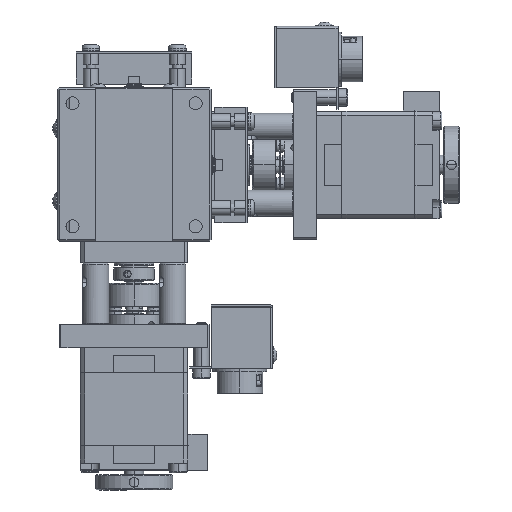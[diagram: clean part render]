
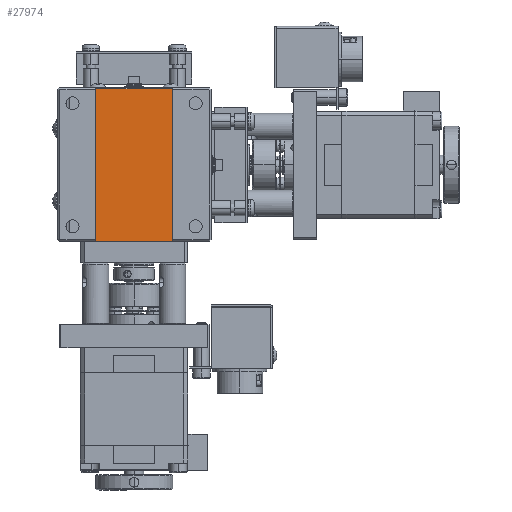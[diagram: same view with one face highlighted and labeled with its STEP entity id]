
A CAD part, front view. The second image highlights one B-rep face of the part: STEP entity #27974.
In plain terms, the highlighted planar face has unit normal (0, -1, 0).
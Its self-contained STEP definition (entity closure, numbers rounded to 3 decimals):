
#2686 = DIRECTION ( 'NONE',  ( 1., 0., 0. ) ) ;
#12378 = CARTESIAN_POINT ( 'NONE',  ( -44.516, -14.526, 77.578 ) ) ;
#14372 = VERTEX_POINT ( 'NONE', #41138 ) ;
#16487 = PLANE ( 'NONE',  #55704 ) ;
#16678 = EDGE_CURVE ( 'NONE', #14372, #45744, #59919, .T. ) ;
#16790 = DIRECTION ( 'NONE',  ( 0., -1., 0. ) ) ;
#18212 = DIRECTION ( 'NONE',  ( -1., 0., 0. ) ) ;
#19811 = CARTESIAN_POINT ( 'NONE',  ( -34.516, -14.526, 37.778 ) ) ;
#20837 = ORIENTED_EDGE ( 'NONE', *, *, #29891, .T. ) ;
#21247 = VECTOR ( 'NONE', #2686, 1000. ) ;
#26980 = DIRECTION ( 'NONE',  ( -1., 0., 0. ) ) ;
#27974 = ADVANCED_FACE ( 'NONE', ( #31916 ), #16487, .T. ) ;
#28223 = VECTOR ( 'NONE', #44573, 1000. ) ;
#29155 = EDGE_CURVE ( 'NONE', #39393, #31559, #35401, .T. ) ;
#29891 = EDGE_CURVE ( 'NONE', #45744, #39393, #33698, .T. ) ;
#30753 = ORIENTED_EDGE ( 'NONE', *, *, #29155, .T. ) ;
#31559 = VERTEX_POINT ( 'NONE', #52505 ) ;
#31916 = FACE_OUTER_BOUND ( 'NONE', #58806, .T. ) ;
#33698 = LINE ( 'NONE', #19811, #49544 ) ;
#33797 = CARTESIAN_POINT ( 'NONE',  ( -14.516, -14.526, 37.778 ) ) ;
#35401 = LINE ( 'NONE', #44974, #21247 ) ;
#39393 = VERTEX_POINT ( 'NONE', #53021 ) ;
#41138 = CARTESIAN_POINT ( 'NONE',  ( -14.516, -14.526, 77.578 ) ) ;
#43259 = DIRECTION ( 'NONE',  ( 0., 0., -1. ) ) ;
#43758 = VECTOR ( 'NONE', #18212, 1000. ) ;
#44573 = DIRECTION ( 'NONE',  ( 0., 0., 1. ) ) ;
#44974 = CARTESIAN_POINT ( 'NONE',  ( -44.516, -14.526, 37.978 ) ) ;
#45744 = VERTEX_POINT ( 'NONE', #47725 ) ;
#45768 = EDGE_CURVE ( 'NONE', #31559, #14372, #57301, .T. ) ;
#47725 = CARTESIAN_POINT ( 'NONE',  ( -34.516, -14.526, 77.578 ) ) ;
#49544 = VECTOR ( 'NONE', #43259, 1000. ) ;
#50160 = CARTESIAN_POINT ( 'NONE',  ( -44.516, -14.526, 37.778 ) ) ;
#52505 = CARTESIAN_POINT ( 'NONE',  ( -14.516, -14.526, 37.978 ) ) ;
#53021 = CARTESIAN_POINT ( 'NONE',  ( -34.516, -14.526, 37.978 ) ) ;
#55704 = AXIS2_PLACEMENT_3D ( 'NONE', #50160, #16790, #26980 ) ;
#56403 = ORIENTED_EDGE ( 'NONE', *, *, #16678, .T. ) ;
#57301 = LINE ( 'NONE', #33797, #28223 ) ;
#58806 = EDGE_LOOP ( 'NONE', ( #56403, #20837, #30753, #59950 ) ) ;
#59919 = LINE ( 'NONE', #12378, #43758 ) ;
#59950 = ORIENTED_EDGE ( 'NONE', *, *, #45768, .T. ) ;
